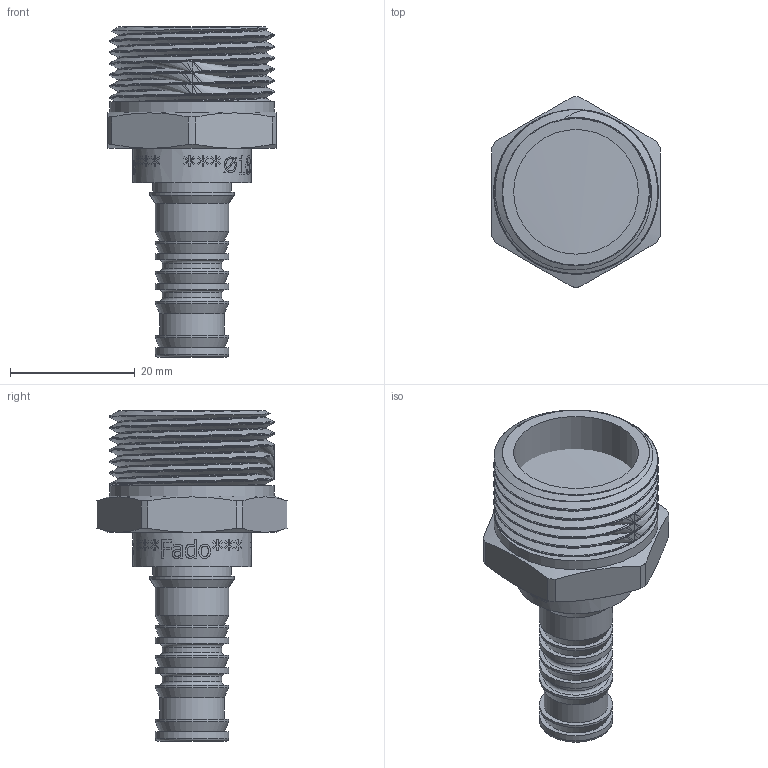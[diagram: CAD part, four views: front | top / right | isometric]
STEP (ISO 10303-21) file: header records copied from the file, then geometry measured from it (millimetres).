
FILE_DESCRIPTION(/* description */ (''),/* implementation_level */ '2;1');
FILE_NAME(/* name */ 'C:\Users\Doom\Desktop\Фадотех\Пресс\HDM22-1 31.03.2020\HDM22-1 31.03.2020.stp',/* time_stamp */ '2022-08-11T19:46:38+03:00',/* author */ ('Doom'),/* organization */ (''),/* preprocessor_version */ 'ST-DEVELOPER v18',/* originating_system */ 'Autodesk Inventor 2020',/* authorisation */ '');
FILE_SCHEMA (('AUTOMOTIVE_DESIGN { 1 0 10303 214 3 1 1 }'));
Length unit declared in the file: millimetre
Products named in the file (1): 16 Model 18.12.2019
Bounding box: 27 x 30.5 x 53 mm (x, y, z)
Volume: 9455.8 mm3; surface area: 9352.6 mm2
Topology: 2 solids, 2 shells, 509 faces, 1405 edges, 944 vertices
Faces by surface type: bspline 311, plane 107, cylinder 69, cone 17, torus 5
Full cylindrical faces by diameter (mm): 7.5 x1, 9.5 x2, 10.3 x1, 11.8 x8, 12.6 x1, 13.5 x1, 15 x1, 19 x1, 20 x1, 23.71 x2, 26.4 x9
Entity records: 25442 total; most frequent: CARTESIAN_POINT 14374, ORIENTED_EDGE 2810, EDGE_CURVE 1405, DIRECTION 1377, VERTEX_POINT 944, B_SPLINE_CURVE_WITH_KNOTS 646, EDGE_LOOP 557, FACE_OUTER_BOUND 509
